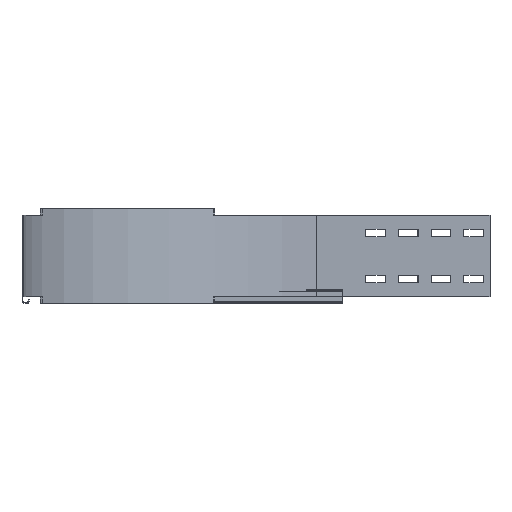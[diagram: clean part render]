
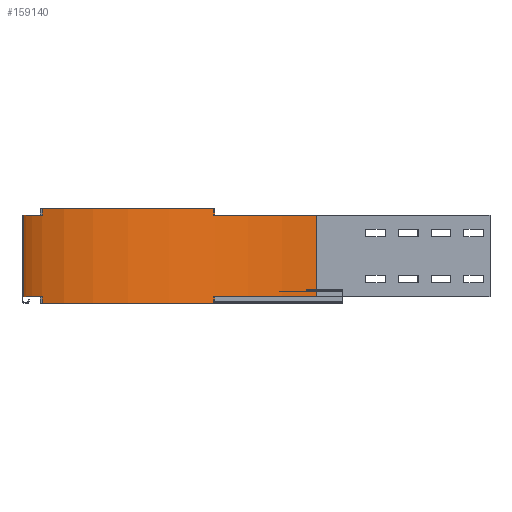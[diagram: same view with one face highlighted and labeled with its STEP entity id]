
A CAD part, left-side view. The second image highlights one B-rep face of the part: STEP entity #159140.
In plain terms, the highlighted cylindrical face has radius 447 mm (diameter 894 mm), a partial arc.
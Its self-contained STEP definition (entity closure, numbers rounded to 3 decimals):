
#136570=CARTESIAN_POINT('',(418.993,-294.263,0.));
#136580=VERTEX_POINT('',#136570);
#136610=CARTESIAN_POINT('',(0.,-450.,0.));
#136620=DIRECTION('',(0.,0.,1.));
#136630=DIRECTION('',(0.937,0.348,0.));
#136640=AXIS2_PLACEMENT_3D('',#136610,#136620,#136630);
#136650=CIRCLE('',#136640,447.);
#136660=CARTESIAN_POINT('',(155.737,-31.007,0.));
#136670=VERTEX_POINT('',#136660);
#136680=EDGE_CURVE('',#136580,#136670,#136650,.T.);
#138650=CARTESIAN_POINT('',(447.,-450.,-10.));
#138660=VERTEX_POINT('',#138650);
#138710=CARTESIAN_POINT('',(0.,-450.,-10.));
#138720=DIRECTION('',(0.,0.,-1.));
#138730=DIRECTION('',(0.937,0.348,0.));
#138740=AXIS2_PLACEMENT_3D('',#138710,#138720,#138730);
#138750=CIRCLE('',#138740,447.);
#138760=CARTESIAN_POINT('',(418.993,-294.263,-10.));
#138770=VERTEX_POINT('',#138760);
#138780=EDGE_CURVE('',#138770,#138660,#138750,.T.);
#139190=CARTESIAN_POINT('',(0.,-450.,-145.));
#139200=DIRECTION('',(0.,0.,1.));
#139210=DIRECTION('',(0.937,0.348,0.));
#139220=AXIS2_PLACEMENT_3D('',#139190,#139200,#139210);
#139230=CIRCLE('',#139220,447.);
#139240=CARTESIAN_POINT('',(418.993,-294.263,-145.));
#139250=VERTEX_POINT('',#139240);
#139260=CARTESIAN_POINT('',(155.737,-31.007,-145.));
#139270=VERTEX_POINT('',#139260);
#139280=EDGE_CURVE('',#139250,#139270,#139230,.T.);
#139610=CARTESIAN_POINT('',(0.,-450.,-135.));
#139620=DIRECTION('',(0.,0.,1.));
#139630=DIRECTION('',(0.348,0.937,0.));
#139640=AXIS2_PLACEMENT_3D('',#139610,#139620,#139630);
#139650=CIRCLE('',#139640,447.);
#139660=CARTESIAN_POINT('',(155.737,-31.007,-135.));
#139670=VERTEX_POINT('',#139660);
#139680=CARTESIAN_POINT('',(0.,-3.,-135.));
#139690=VERTEX_POINT('',#139680);
#139700=EDGE_CURVE('',#139670,#139690,#139650,.T.);
#148960=CARTESIAN_POINT('',(0.,-3.,0.));
#148970=DIRECTION('',(0.,0.,-1.));
#148980=VECTOR('',#148970,1.);
#148990=LINE('',#148960,#148980);
#149000=CARTESIAN_POINT('',(0.,-3.,-10.));
#149010=VERTEX_POINT('',#149000);
#149020=EDGE_CURVE('',#149010,#139690,#148990,.T.);
#151950=CARTESIAN_POINT('',(447.,-450.,-135.));
#151960=VERTEX_POINT('',#151950);
#151990=CARTESIAN_POINT('',(447.,-450.,0.));
#152000=DIRECTION('',(0.,0.,1.));
#152010=VECTOR('',#152000,1.);
#152020=LINE('',#151990,#152010);
#152030=EDGE_CURVE('',#151960,#138660,#152020,.T.);
#157200=CARTESIAN_POINT('',(418.993,-294.263,0.));
#157210=DIRECTION('',(0.,0.,-1.));
#157220=VECTOR('',#157210,1.);
#157230=LINE('',#157200,#157220);
#157240=EDGE_CURVE('',#136580,#138770,#157230,.T.);
#157370=CARTESIAN_POINT('',(155.737,-31.007,-145.));
#157380=DIRECTION('',(0.,0.,1.));
#157390=VECTOR('',#157380,1.);
#157400=LINE('',#157370,#157390);
#157410=EDGE_CURVE('',#139270,#139670,#157400,.T.);
#157550=CARTESIAN_POINT('',(155.737,-31.007,-10.));
#157560=VERTEX_POINT('',#157550);
#157610=CARTESIAN_POINT('',(155.737,-31.007,-10.));
#157620=DIRECTION('',(0.,0.,1.));
#157630=VECTOR('',#157620,1.);
#157640=LINE('',#157610,#157630);
#157650=EDGE_CURVE('',#157560,#136670,#157640,.T.);
#157810=CARTESIAN_POINT('',(418.993,-294.263,-135.));
#157820=VERTEX_POINT('',#157810);
#157850=CARTESIAN_POINT('',(0.,-450.,-135.));
#157860=DIRECTION('',(0.,0.,1.));
#157870=DIRECTION('',(1.,0.,0.));
#157880=AXIS2_PLACEMENT_3D('',#157850,#157860,#157870);
#157890=CIRCLE('',#157880,447.);
#157900=EDGE_CURVE('',#151960,#157820,#157890,.T.);
#158840=CARTESIAN_POINT('',(0.,-450.,-10.));
#158850=DIRECTION('',(0.,0.,1.));
#158860=DIRECTION('',(1.,0.,0.));
#158870=AXIS2_PLACEMENT_3D('',#158840,#158850,#158860);
#158880=CYLINDRICAL_SURFACE('',#158870,447.);
#158890=ORIENTED_EDGE('',*,*,#139700,.F.);
#158900=ORIENTED_EDGE('',*,*,#149020,.T.);
#158910=CARTESIAN_POINT('',(0.,-450.,-10.));
#158920=DIRECTION('',(0.,0.,-1.));
#158930=DIRECTION('',(0.,1.,0.));
#158940=AXIS2_PLACEMENT_3D('',#158910,#158920,#158930);
#158950=CIRCLE('',#158940,447.);
#158960=EDGE_CURVE('',#149010,#157560,#158950,.T.);
#158970=ORIENTED_EDGE('',*,*,#158960,.F.);
#158980=ORIENTED_EDGE('',*,*,#157650,.F.);
#158990=ORIENTED_EDGE('',*,*,#136680,.T.);
#159000=ORIENTED_EDGE('',*,*,#157240,.F.);
#159010=ORIENTED_EDGE('',*,*,#138780,.F.);
#159020=ORIENTED_EDGE('',*,*,#152030,.T.);
#159030=ORIENTED_EDGE('',*,*,#157900,.F.);
#159040=CARTESIAN_POINT('',(418.993,-294.263,-135.));
#159050=DIRECTION('',(0.,0.,-1.));
#159060=VECTOR('',#159050,1.);
#159070=LINE('',#159040,#159060);
#159080=EDGE_CURVE('',#157820,#139250,#159070,.T.);
#159090=ORIENTED_EDGE('',*,*,#159080,.F.);
#159100=ORIENTED_EDGE('',*,*,#139280,.F.);
#159110=ORIENTED_EDGE('',*,*,#157410,.F.);
#159120=EDGE_LOOP('',(#159110,#159100,#159090,#159030,#159020,#159010,
#159000,#158990,#158980,#158970,#158900,#158890));
#159130=FACE_OUTER_BOUND('',#159120,.T.);
#159140=ADVANCED_FACE('',(#159130),#158880,.F.);
